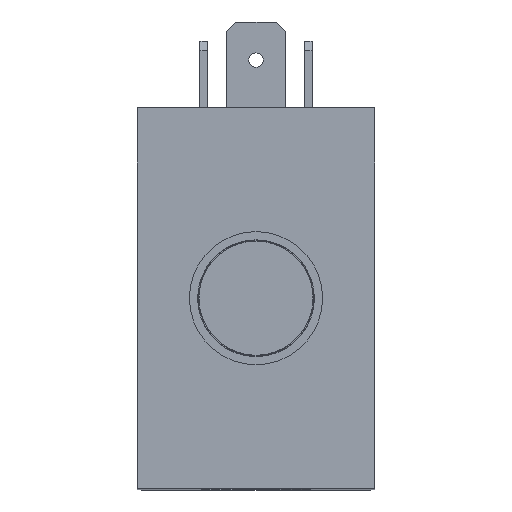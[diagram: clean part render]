
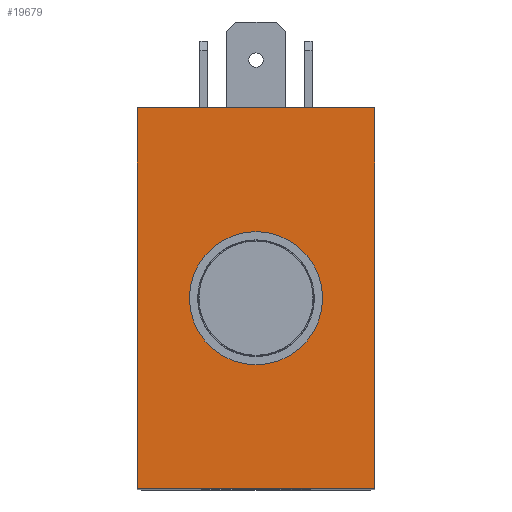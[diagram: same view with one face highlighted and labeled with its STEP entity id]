
A CAD part, top view. The second image highlights one B-rep face of the part: STEP entity #19679.
In plain terms, the highlighted planar face has unit normal (0, 0, 1).
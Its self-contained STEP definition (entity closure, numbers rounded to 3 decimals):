
#125 = VERTEX_POINT ( 'NONE', #3086 ) ;
#148 = VERTEX_POINT ( 'NONE', #3109 ) ;
#309 = VERTEX_POINT ( 'NONE', #3270 ) ;
#310 = VERTEX_POINT ( 'NONE', #3271 ) ;
#737 = EDGE_CURVE ( 'NONE', #310, #148, #4020, .T. ) ;
#740 = EDGE_CURVE ( 'NONE', #19021, #19021, #4028, .T. ) ;
#741 = EDGE_CURVE ( 'NONE', #148, #125, #4025, .T. ) ;
#742 = EDGE_CURVE ( 'NONE', #125, #309, #4022, .T. ) ;
#1382 = AXIS2_PLACEMENT_3D ( 'NONE', #6054, #6059, #6060 ) ;
#3086 = CARTESIAN_POINT ( 'NONE',  ( 12.5, -20., 74. ) ) ;
#3109 = CARTESIAN_POINT ( 'NONE',  ( 12.5, 20., 74. ) ) ;
#3270 = CARTESIAN_POINT ( 'NONE',  ( -12.5, -20., 74. ) ) ;
#3271 = CARTESIAN_POINT ( 'NONE',  ( -12.5, 20., 74. ) ) ;
#4020 = LINE ( 'NONE', #6052, #4021 ) ;
#4021 = VECTOR ( 'NONE', #6053, 1000. ) ;
#4022 = LINE ( 'NONE', #6064, #4030 ) ;
#4025 = LINE ( 'NONE', #6061, #4027 ) ;
#4027 = VECTOR ( 'NONE', #6062, 1000. ) ;
#4028 = CIRCLE ( 'NONE', #1382, 7. ) ;
#4030 = VECTOR ( 'NONE', #6065, 1000. ) ;
#6052 = CARTESIAN_POINT ( 'NONE',  ( -12.5, 20., 74. ) ) ;
#6053 = DIRECTION ( 'NONE',  ( 1., 0., 0. ) ) ;
#6054 = CARTESIAN_POINT ( 'NONE',  ( 0., 0., 74. ) ) ;
#6059 = DIRECTION ( 'NONE',  ( 0., 0., -1. ) ) ;
#6060 = DIRECTION ( 'NONE',  ( -1., 0., 0. ) ) ;
#6061 = CARTESIAN_POINT ( 'NONE',  ( 12.5, 20., 74. ) ) ;
#6062 = DIRECTION ( 'NONE',  ( 0., -1., 0. ) ) ;
#6064 = CARTESIAN_POINT ( 'NONE',  ( 12.5, -20., 74. ) ) ;
#6065 = DIRECTION ( 'NONE',  ( -1., 0., 0. ) ) ;
#9149 = AXIS2_PLACEMENT_3D ( 'NONE', #15013, #15015, #15016 ) ;
#10021 = EDGE_LOOP ( 'NONE', ( #11387, #11388, #11389, #11390 ) ) ;
#10029 = EDGE_LOOP ( 'NONE', ( #11391 ) ) ;
#10851 = LINE ( 'NONE', #11936, #10860 ) ;
#10860 = VECTOR ( 'NONE', #11937, 1000. ) ;
#11387 = ORIENTED_EDGE ( 'NONE', *, *, #17048, .F. ) ;
#11388 = ORIENTED_EDGE ( 'NONE', *, *, #742, .F. ) ;
#11389 = ORIENTED_EDGE ( 'NONE', *, *, #741, .F. ) ;
#11390 = ORIENTED_EDGE ( 'NONE', *, *, #737, .F. ) ;
#11391 = ORIENTED_EDGE ( 'NONE', *, *, #740, .T. ) ;
#11936 = CARTESIAN_POINT ( 'NONE',  ( -12.5, -20., 74. ) ) ;
#11937 = DIRECTION ( 'NONE',  ( 0., 1., 0. ) ) ;
#14389 = FACE_OUTER_BOUND ( 'NONE', #10021, .T. ) ;
#14401 = FACE_BOUND ( 'NONE', #10029, .T. ) ;
#15013 = CARTESIAN_POINT ( 'NONE',  ( 0., 0., 74. ) ) ;
#15014 = PLANE ( 'NONE',  #9149 ) ;
#15015 = DIRECTION ( 'NONE',  ( 0., 0., 1. ) ) ;
#15016 = DIRECTION ( 'NONE',  ( 0.707, 0.707, 0. ) ) ;
#17048 = EDGE_CURVE ( 'NONE', #309, #310, #10851, .T. ) ;
#19021 = VERTEX_POINT ( 'NONE', #19022 ) ;
#19022 = CARTESIAN_POINT ( 'NONE',  ( -7., 0., 74. ) ) ;
#19679 = ADVANCED_FACE ( 'NONE', ( #14389, #14401 ), #15014, .T. ) ;
